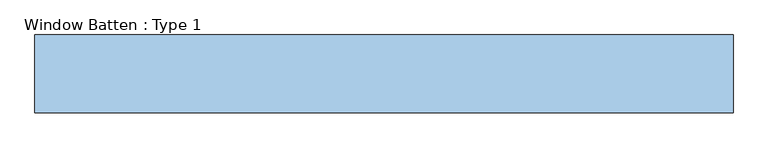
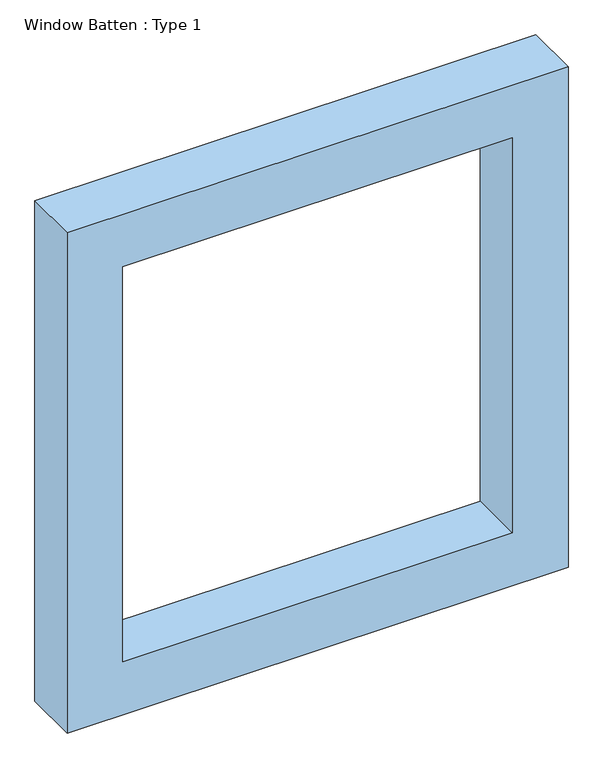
"""IFC4 building model written with IfcOpenShell, lengths in millimetres: window geometry, Window Batten : Type 1."""

from ifc_helpers import new_model, si_unit, frame, origin, place, context, project, spatial, polyline, outline, extrude, source, transform, mapped, element, save


def window_batten_type_1_bbb21959(model_context):
    return source(origin(), model_context, "Body", "SweptSolid", [
        extrude(outline(polyline([(2708.8484214, -774.5601883), (809.0911018, -774.5601883), (809.0911018, 1024.5601883), (2708.8484214, 1024.5601883), (2708.8484214, -774.5601883)]), holes=[polyline([(2508.8484214, -574.5601883), (2508.8484214, 824.5601883), (1009.0911018, 824.5601883), (1009.0911018, -574.5601883), (2508.8484214, -574.5601883)])]), frame((0.0, -310.0, 0.0), z_axis=(0.0, 1.0, 0.0), x_axis=(0.0, 0.0, 1.0)), (0.0, 0.0, 1.0), 200.0),
    ])


if __name__ == "__main__":
    model = new_model("IFC4")
    model_context = context("Model", 3, world=origin())
    ifc_project = project(units=[si_unit("LENGTHUNIT", "METRE", prefix="MILLI")], contexts=[model_context])
    site = spatial("IfcSite", under=ifc_project)
    building = spatial("IfcBuilding", under=site)
    placement = place(None, origin())
    window_batten_type_1_shape = window_batten_type_1_bbb21959(model_context)
    element("IfcWindow", 1, ObjectType="Window Batten : Type 1", at=placement, inside=building, context=model_context, shape_type="MappedRepresentation", body=[
        mapped(window_batten_type_1_shape, transform((0.0, 0.0, 0.0), x_axis=(1.0, 0.0, 0.0), y_axis=(0.0, 1.0, 0.0), z_axis=(0.0, 0.0, 1.0))),
    ])
    save(model, "model.ifc")
